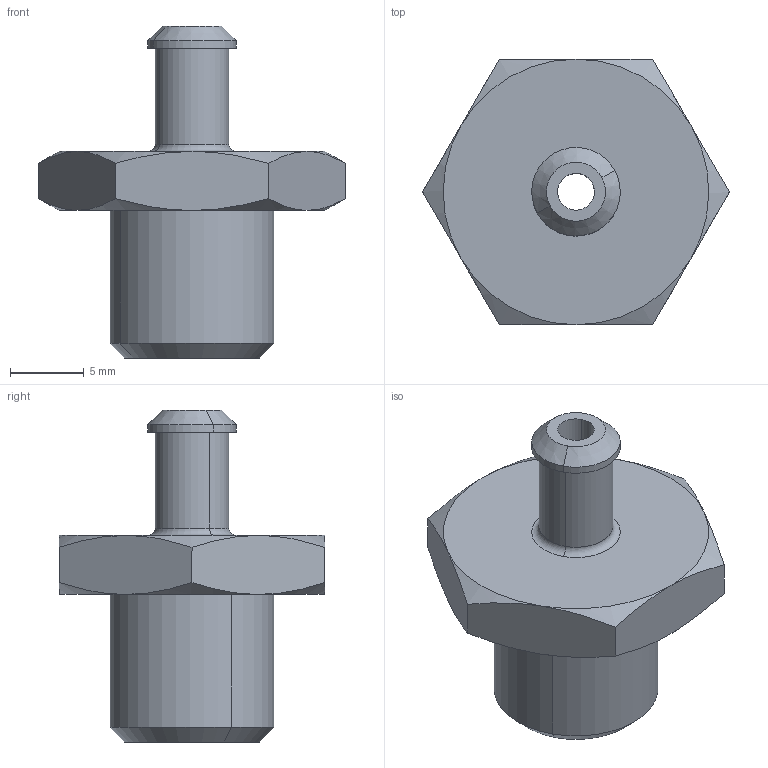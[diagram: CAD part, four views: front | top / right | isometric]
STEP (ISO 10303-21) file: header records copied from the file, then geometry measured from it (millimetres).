
FILE_DESCRIPTION(('CATIA V5 STEP Exchange'),'2;1');
FILE_NAME('C:\Users\Hashaam\Documents\CAD_Project\review\MC_Inlet_live.stp','2026-10-06T14:40:15+00:00',('none'),('none'),'CATIA Version 5 Release 21 GA (IN-10)','CATIA V5 STEP AP203','none');
FILE_SCHEMA(('CONFIG_CONTROL_DESIGN'));
Length unit declared in the file: millimetre
Products named in the file (1): Part15
Bounding box: 20.78 x 18 x 22.5 mm (x, y, z)
Volume: 1881.2 mm3; surface area: 1524.1 mm2
Topology: 1 solids, 1 shells, 45 faces, 98 edges, 58 vertices
Faces by surface type: cone 22, plane 11, cylinder 10, torus 2
Entity records: 1154 total; most frequent: CARTESIAN_POINT 286, ORIENTED_EDGE 196, DIRECTION 112, EDGE_CURVE 98, AXIS2_PLACEMENT_3D 66, VERTEX_POINT 58, EDGE_LOOP 50, ADVANCED_FACE 45
